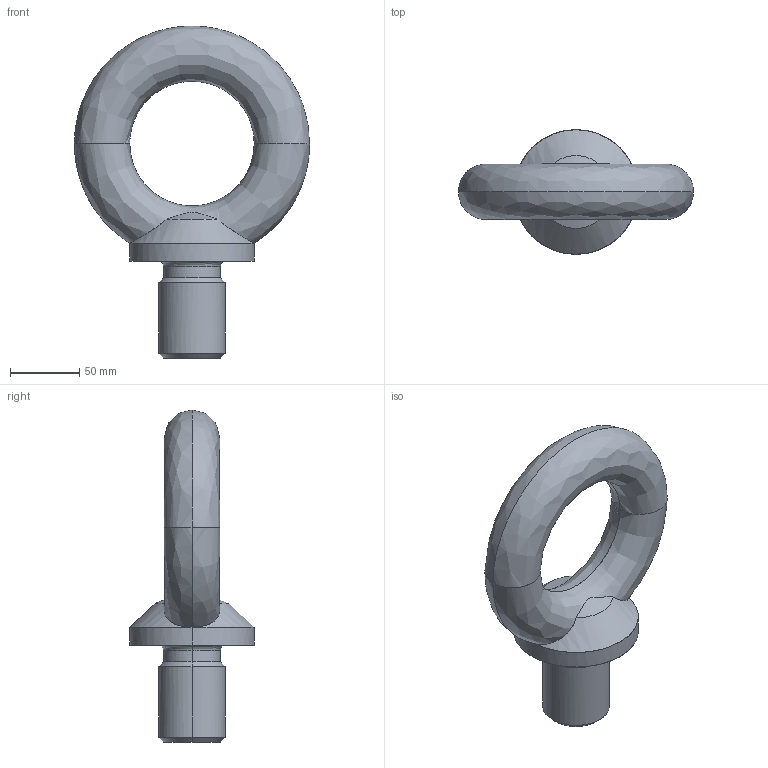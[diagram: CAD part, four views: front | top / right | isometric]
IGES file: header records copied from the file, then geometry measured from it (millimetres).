
Global section: file name: E:\UnigraphicsGraphicData\MISUMI_PRESS-PARTS\IGES\3d_chi48_03526_r00.igs; native system: NX V5.0; preprocessor: UGS NX IGES V5.0; author: MISUMI; date: 20110105.160219; units: millimetre
Bounding box: 170 x 90 x 239.99 mm (x, y, z)
Surface area: 70232.7 mm2 (no closed solid volume)
Topology: 0 solids, 0 shells, 22 faces, 164 edges, 164 vertices
Faces by surface type: bspline 22
